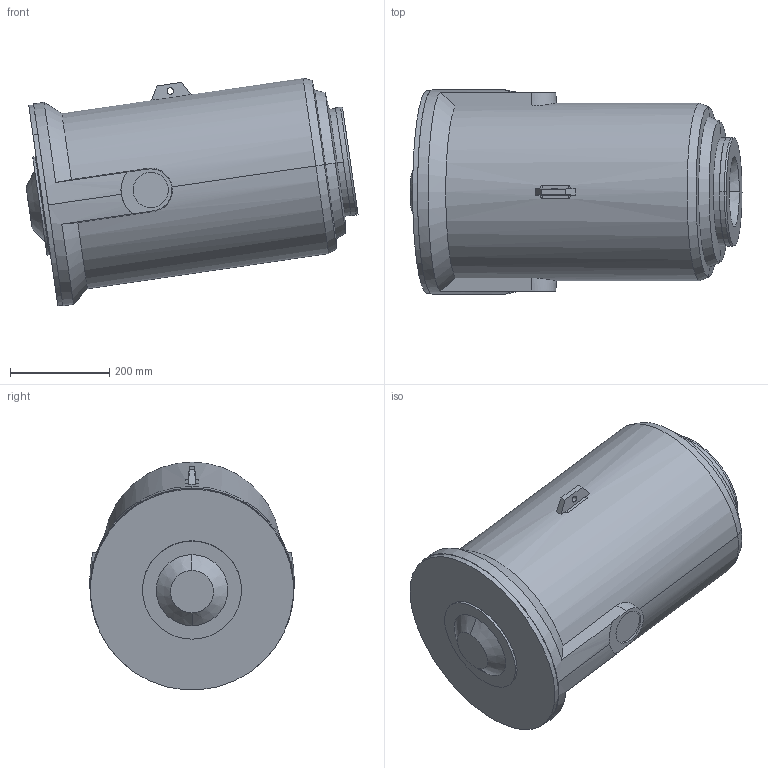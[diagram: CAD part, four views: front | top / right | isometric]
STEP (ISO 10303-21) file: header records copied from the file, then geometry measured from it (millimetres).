
FILE_DESCRIPTION (( 'STEP AP214' ), '1' );
FILE_NAME ('IRB6760_All_OC_00_CYL_CAD.step', '2025-09-30T13:06:54', ( '' ), ( '' ), 'SwSTEP 2.0', 'SolidWorks 2024', '' );
FILE_SCHEMA (( 'AUTOMOTIVE_DESIGN' ));
Length unit declared in the file: millimetre
Products named in the file (1): IRB6760_All_OC_00_CYL_CAD
Bounding box: 670.34 x 412 x 459.81 mm (x, y, z)
Volume: 61310544.9 mm3; surface area: 1080047.8 mm2
Topology: 1 solids, 1 shells, 76 faces, 174 edges, 110 vertices
Faces by surface type: cylinder 32, plane 24, cone 18, bspline 2
Entity records: 3567 total; most frequent: CARTESIAN_POINT 1011, DIRECTION 356, ORIENTED_EDGE 348, EDGE_CURVE 174, AXIS2_PLACEMENT_3D 139, VERTEX_POINT 110, EDGE_LOOP 88, LINE 78
